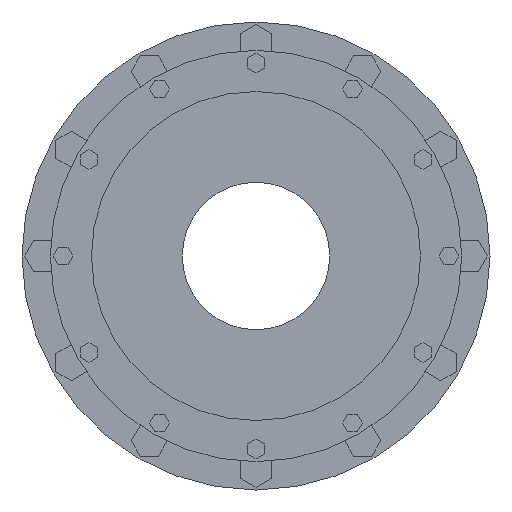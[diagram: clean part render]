
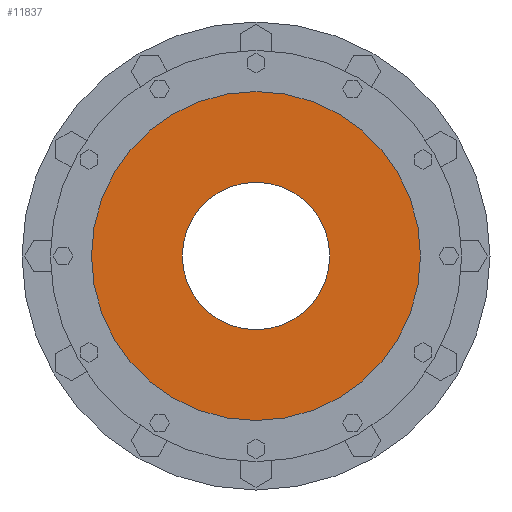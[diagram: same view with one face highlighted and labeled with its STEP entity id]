
A CAD part, left-side view. The second image highlights one B-rep face of the part: STEP entity #11837.
In plain terms, the highlighted planar face has unit normal (-1, 0, 0) as drawn and (1, 0, 0) by its records, which use the part's own axes.
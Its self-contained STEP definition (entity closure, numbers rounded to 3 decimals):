
#11661=CARTESIAN_POINT('',(-12.5,0.,0.));
#11662=DIRECTION('',(1.,0.,0.));
#11663=DIRECTION('',(0.,1.,0.));
#11664=AXIS2_PLACEMENT_3D('',#11661,#11662,#11663);
#11671=CARTESIAN_POINT('',(-12.5,0.,0.));
#11672=DIRECTION('',(-1.,0.,0.));
#11673=DIRECTION('',(0.,1.,0.));
#11674=AXIS2_PLACEMENT_3D('',#11671,#11672,#11673);
#11676=CARTESIAN_POINT('',(-12.5,0.,0.));
#11677=DIRECTION('',(1.,0.,0.));
#11678=DIRECTION('',(0.,1.,0.));
#11679=AXIS2_PLACEMENT_3D('',#11676,#11677,#11678);
#11755=CARTESIAN_POINT('',(-12.5,0.,0.));
#11756=DIRECTION('',(1.,0.,0.));
#11757=DIRECTION('',(0.,-1.,0.));
#11758=AXIS2_PLACEMENT_3D('',#11755,#11756,#11757);
#11782=CARTESIAN_POINT('',(-12.5,290.,0.));
#11784=VERTEX_POINT('',#11782);
#11786=CARTESIAN_POINT('',(-12.5,-290.,0.));
#11788=VERTEX_POINT('',#11786);
#11793=CARTESIAN_POINT('',(-12.5,130.,0.));
#11794=CARTESIAN_POINT('',(-12.5,-130.,0.));
#11795=VERTEX_POINT('',#11793);
#11796=VERTEX_POINT('',#11794);
#11821=CARTESIAN_POINT('',(-12.5,0.,0.));
#11822=DIRECTION('',(1.,0.,0.));
#11823=DIRECTION('',(0.,-1.,0.));
#11824=AXIS2_PLACEMENT_3D('',#11821,#11822,#11823);
#11825=PLANE('',#11824);
#11827=ORIENTED_EDGE('',*,*,#11826,.T.);
#11829=ORIENTED_EDGE('',*,*,#11828,.F.);
#11830=EDGE_LOOP('',(#11827,#11829));
#11831=FACE_OUTER_BOUND('',#11830,.F.);
#11832=ORIENTED_EDGE('',*,*,#11810,.T.);
#11834=ORIENTED_EDGE('',*,*,#11833,.T.);
#11835=EDGE_LOOP('',(#11832,#11834));
#11836=FACE_BOUND('',#11835,.F.);
#11837=ADVANCED_FACE('',(#11831,#11836),#11825,.T.);
#11665=CIRCLE('',#11664,130.);
#11675=CIRCLE('',#11674,290.);
#11680=CIRCLE('',#11679,290.);
#11759=CIRCLE('',#11758,130.);
#11810=EDGE_CURVE('',#11795,#11796,#11665,.T.);
#11826=EDGE_CURVE('',#11784,#11788,#11675,.T.);
#11828=EDGE_CURVE('',#11784,#11788,#11680,.T.);
#11833=EDGE_CURVE('',#11796,#11795,#11759,.T.);
